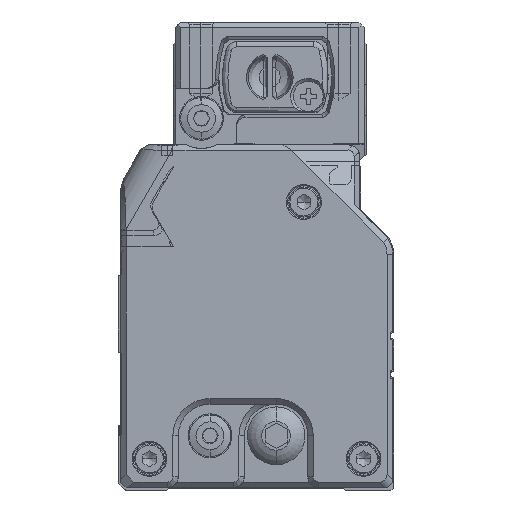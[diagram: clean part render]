
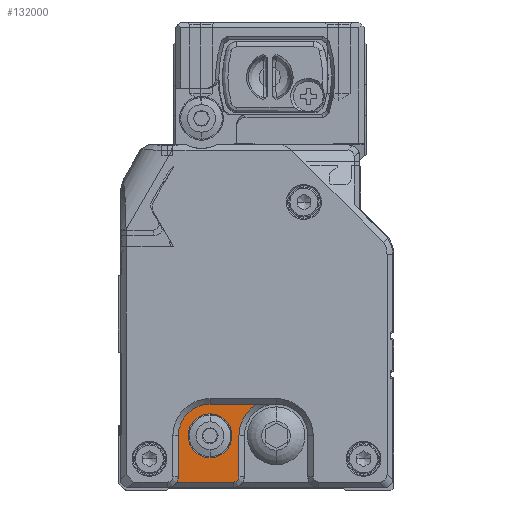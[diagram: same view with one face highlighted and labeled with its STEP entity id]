
A CAD part, left-side view. The second image highlights one B-rep face of the part: STEP entity #132000.
In plain terms, the highlighted planar face has unit normal (-1, 0, 0) as drawn and (1, 0, 0) by its records, which use the part's own axes.
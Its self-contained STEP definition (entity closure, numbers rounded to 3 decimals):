
#20170=CARTESIAN_POINT('',(664.177,4.212,
11.598));
#20180=DIRECTION('',(0.,-1.,0.));
#20190=VECTOR('',#20180,1.);
#20200=LINE('',#20170,#20190);
#20210=CARTESIAN_POINT('',(664.177,8.48,
11.598));
#20220=VERTEX_POINT('',#20210);
#20230=CARTESIAN_POINT('',(664.177,-1.788,
11.598));
#20240=VERTEX_POINT('',#20230);
#20250=EDGE_CURVE('',#20220,#20240,#20200,.T.);
#60960=CARTESIAN_POINT('',(664.177,2.462,
-0.852));
#60970=VERTEX_POINT('',#60960);
#61020=CARTESIAN_POINT('',(664.177,2.462,
3.148));
#61030=DIRECTION('',(-1.,0.,0.));
#61040=DIRECTION('',(0.,0.,-1.));
#61050=AXIS2_PLACEMENT_3D('',#61020,#61030,#61040);
#61060=CIRCLE('',#61050,4.);
#61070=CARTESIAN_POINT('',(664.177,2.462,
7.148));
#61080=VERTEX_POINT('',#61070);
#61090=EDGE_CURVE('',#60970,#61080,#61060,.T.);
#73300=CARTESIAN_POINT('',(664.177,8.212,
10.598));
#73310=VERTEX_POINT('',#73300);
#73340=CARTESIAN_POINT('',(664.177,10.212,
10.598));
#73350=DIRECTION('',(-1.,0.,0.));
#73360=DIRECTION('',(0.,1.,0.));
#73370=AXIS2_PLACEMENT_3D('',#73340,#73350,#73360);
#73380=CIRCLE('',#73370,2.);
#73390=EDGE_CURVE('',#73310,#20220,#73380,.T.);
#117190=CARTESIAN_POINT('',(664.177,-1.788,
10.598));
#117200=DIRECTION('',(-1.,0.,0.));
#117210=DIRECTION('',(0.,1.,0.));
#117220=AXIS2_PLACEMENT_3D('',#117190,#117200,#117210);
#117230=CIRCLE('',#117220,1.);
#117240=CARTESIAN_POINT('',(664.177,-2.788,
10.598));
#117250=VERTEX_POINT('',#117240);
#117260=EDGE_CURVE('',#117250,#20240,#117230,.T.);
#124070=CARTESIAN_POINT('',(664.177,-6.002,
-2.602));
#124080=VERTEX_POINT('',#124070);
#124110=CARTESIAN_POINT('',(664.177,-5.888,
-2.602));
#124120=DIRECTION('',(0.,1.,0.));
#124130=VECTOR('',#124120,1.);
#124140=LINE('',#124110,#124130);
#124150=CARTESIAN_POINT('',(664.177,2.462,
-2.602));
#124160=VERTEX_POINT('',#124150);
#124170=EDGE_CURVE('',#124080,#124160,#124140,.T.);
#131540=CARTESIAN_POINT('',(664.177,-5.938,
-12.8));
#131550=DIRECTION('',(-1.,0.,0.));
#131560=DIRECTION('',(0.,0.,-1.));
#131570=AXIS2_PLACEMENT_3D('',#131540,#131550,#131560);
#131580=PLANE('',#131570);
#131590=ORIENTED_EDGE('',*,*,#20250,.T.);
#131600=ORIENTED_EDGE('',*,*,#73390,.T.);
#131610=CARTESIAN_POINT('',(664.177,8.212,
3.148));
#131620=DIRECTION('',(0.,0.,1.));
#131630=VECTOR('',#131620,1.);
#131640=LINE('',#131610,#131630);
#131650=CARTESIAN_POINT('',(664.177,8.212,
3.148));
#131660=VERTEX_POINT('',#131650);
#131670=EDGE_CURVE('',#131660,#73310,#131640,.T.);
#131680=ORIENTED_EDGE('',*,*,#131670,.T.);
#131690=CARTESIAN_POINT('',(664.177,2.462,
3.148));
#131700=DIRECTION('',(-1.,0.,0.));
#131710=DIRECTION('',(0.,1.,0.));
#131720=AXIS2_PLACEMENT_3D('',#131690,#131700,#131710);
#131730=CIRCLE('',#131720,5.75);
#131740=EDGE_CURVE('',#131660,#124160,#131730,.T.);
#131750=ORIENTED_EDGE('',*,*,#131740,.F.);
#131760=ORIENTED_EDGE('',*,*,#124170,.T.);
#131770=CARTESIAN_POINT('',(664.177,-9.538,
3.148));
#131780=DIRECTION('',(-1.,0.,0.));
#131790=DIRECTION('',(0.,1.,0.));
#131800=AXIS2_PLACEMENT_3D('',#131770,#131780,#131790);
#131810=CIRCLE('',#131800,6.75);
#131820=CARTESIAN_POINT('',(664.177,-2.788,
3.148));
#131830=VERTEX_POINT('',#131820);
#131840=EDGE_CURVE('',#131830,#124080,#131810,.T.);
#131850=ORIENTED_EDGE('',*,*,#131840,.T.);
#131860=CARTESIAN_POINT('',(664.177,-2.788,
6.873));
#131870=DIRECTION('',(0.,0.,-1.));
#131880=VECTOR('',#131870,1.);
#131890=LINE('',#131860,#131880);
#131900=EDGE_CURVE('',#117250,#131830,#131890,.T.);
#131910=ORIENTED_EDGE('',*,*,#131900,.T.);
#131920=ORIENTED_EDGE('',*,*,#117260,.F.);
#131930=EDGE_LOOP('',(#131920,#131910,#131850,#131760,#131750,#131680,
#131600,#131590));
#131940=FACE_OUTER_BOUND('',#131930,.T.);
#131950=ORIENTED_EDGE('',*,*,#61090,.T.);
#131960=EDGE_CURVE('',#61080,#60970,#61060,.T.);
#131970=ORIENTED_EDGE('',*,*,#131960,.T.);
#131980=EDGE_LOOP('',(#131970,#131950));
#131990=FACE_BOUND('',#131980,.T.);
#132000=ADVANCED_FACE('',(#131940,#131990),#131580,.F.);
